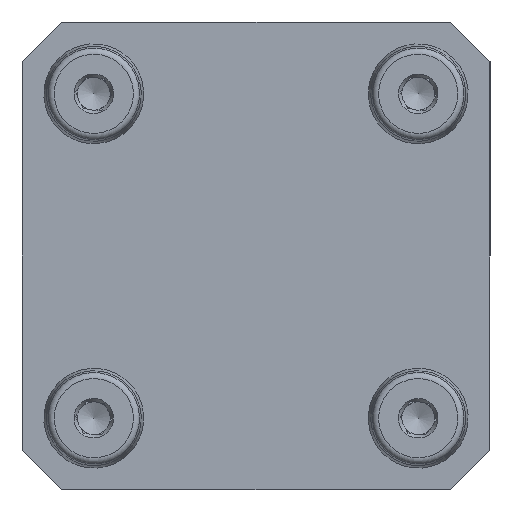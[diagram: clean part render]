
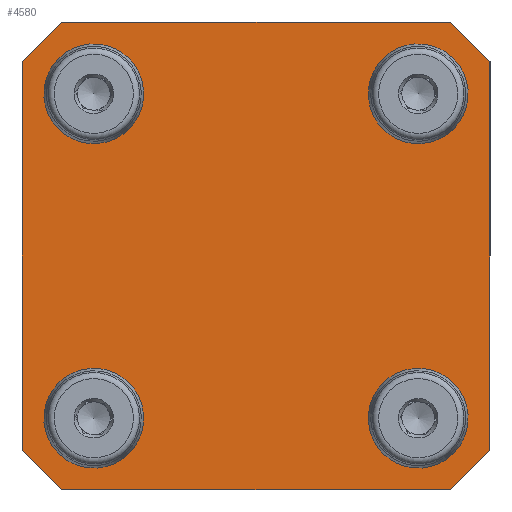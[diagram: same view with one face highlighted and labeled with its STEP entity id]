
A CAD part, front view. The second image highlights one B-rep face of the part: STEP entity #4580.
In plain terms, the highlighted planar face has unit normal (0, -1, 0).
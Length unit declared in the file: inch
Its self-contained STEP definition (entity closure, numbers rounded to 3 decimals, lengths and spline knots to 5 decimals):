
#98 = VERTEX_POINT ( 'NONE', #3923 ) ;
#167 = VECTOR ( 'NONE', #720, 39.37008 ) ;
#196 = DIRECTION ( 'NONE',  ( 0., -1., 0. ) ) ;
#199 = LINE ( 'NONE', #3916, #167 ) ;
#200 = CARTESIAN_POINT ( 'NONE',  ( 1.22638, 0., 1.47638 ) ) ;
#218 = ORIENTED_EDGE ( 'NONE', *, *, #1196, .F. ) ;
#262 = CARTESIAN_POINT ( 'NONE',  ( 1.47638, 0., -1.22638 ) ) ;
#337 = VERTEX_POINT ( 'NONE', #799 ) ;
#404 = ORIENTED_EDGE ( 'NONE', *, *, #4635, .F. ) ;
#425 = EDGE_CURVE ( 'NONE', #955, #889, #953, .T. ) ;
#437 = DIRECTION ( 'NONE',  ( 0., 0., -1. ) ) ;
#468 = EDGE_LOOP ( 'NONE', ( #5824 ) ) ;
#692 = EDGE_LOOP ( 'NONE', ( #218 ) ) ;
#720 = DIRECTION ( 'NONE',  ( 0., 0., 1. ) ) ;
#740 = EDGE_CURVE ( 'NONE', #337, #2561, #5418, .T. ) ;
#788 = DIRECTION ( 'NONE',  ( 0., 0., -1. ) ) ;
#799 = CARTESIAN_POINT ( 'NONE',  ( 1.22638, 0., -1.47638 ) ) ;
#845 = EDGE_CURVE ( 'NONE', #2693, #2693, #5628, .T. ) ;
#882 = CARTESIAN_POINT ( 'NONE',  ( -1.47638, 0., 1.22638 ) ) ;
#889 = VERTEX_POINT ( 'NONE', #882 ) ;
#953 = LINE ( 'NONE', #1881, #1959 ) ;
#955 = VERTEX_POINT ( 'NONE', #1898 ) ;
#983 = DIRECTION ( 'NONE',  ( 0.707, 0., -0.707 ) ) ;
#1065 = CIRCLE ( 'NONE', #5141, 0.23655 ) ;
#1120 = CARTESIAN_POINT ( 'NONE',  ( -1.02362, 0., -1.02362 ) ) ;
#1162 = VECTOR ( 'NONE', #1188, 39.37008 ) ;
#1184 = EDGE_CURVE ( 'NONE', #3751, #3751, #3439, .T. ) ;
#1188 = DIRECTION ( 'NONE',  ( -0.707, 0., 0.707 ) ) ;
#1196 = EDGE_CURVE ( 'NONE', #5645, #5645, #1065, .T. ) ;
#1197 = FACE_BOUND ( 'NONE', #1301, .T. ) ;
#1247 = VERTEX_POINT ( 'NONE', #262 ) ;
#1283 = VECTOR ( 'NONE', #983, 39.37008 ) ;
#1301 = EDGE_LOOP ( 'NONE', ( #5493 ) ) ;
#1349 = DIRECTION ( 'NONE',  ( 0., -1., 0. ) ) ;
#1367 = VECTOR ( 'NONE', #1512, 39.37008 ) ;
#1399 = CARTESIAN_POINT ( 'NONE',  ( 1.02362, 0., 1.26017 ) ) ;
#1412 = CARTESIAN_POINT ( 'NONE',  ( -1.35138, 0., -1.35138 ) ) ;
#1441 = EDGE_CURVE ( 'NONE', #955, #6076, #2038, .T. ) ;
#1512 = DIRECTION ( 'NONE',  ( 0.707, 0., 0.707 ) ) ;
#1525 = DIRECTION ( 'NONE',  ( 0., -1., 0. ) ) ;
#1595 = FACE_OUTER_BOUND ( 'NONE', #4294, .T. ) ;
#1624 = EDGE_CURVE ( 'NONE', #337, #1247, #5613, .T. ) ;
#1657 = EDGE_LOOP ( 'NONE', ( #4866 ) ) ;
#1881 = CARTESIAN_POINT ( 'NONE',  ( -1.35138, 0., 1.35138 ) ) ;
#1898 = CARTESIAN_POINT ( 'NONE',  ( -1.22638, 0., 1.47638 ) ) ;
#1912 = CARTESIAN_POINT ( 'NONE',  ( -1.22638, 0., -1.47638 ) ) ;
#1937 = DIRECTION ( 'NONE',  ( -0.707, 0., -0.707 ) ) ;
#1959 = VECTOR ( 'NONE', #1937, 39.37008 ) ;
#2038 = LINE ( 'NONE', #2167, #4952 ) ;
#2046 = DIRECTION ( 'NONE',  ( 0., 0., 1. ) ) ;
#2071 = EDGE_CURVE ( 'NONE', #3197, #2561, #2765, .T. ) ;
#2147 = AXIS2_PLACEMENT_3D ( 'NONE', #1120, #1525, #2046 ) ;
#2167 = CARTESIAN_POINT ( 'NONE',  ( -1.47638, 0., 1.47638 ) ) ;
#2187 = ORIENTED_EDGE ( 'NONE', *, *, #740, .F. ) ;
#2306 = CARTESIAN_POINT ( 'NONE',  ( -1.02362, 0., 1.02362 ) ) ;
#2336 = VECTOR ( 'NONE', #788, 39.37008 ) ;
#2502 = DIRECTION ( 'NONE',  ( 0., -1., 0. ) ) ;
#2561 = VERTEX_POINT ( 'NONE', #1912 ) ;
#2693 = VERTEX_POINT ( 'NONE', #3874 ) ;
#2765 = LINE ( 'NONE', #1412, #1283 ) ;
#2959 = CARTESIAN_POINT ( 'NONE',  ( 1.35138, 0., 1.35138 ) ) ;
#2976 = ORIENTED_EDGE ( 'NONE', *, *, #2071, .T. ) ;
#2996 = CARTESIAN_POINT ( 'NONE',  ( 1.02362, 0., 1.02362 ) ) ;
#3037 = DIRECTION ( 'NONE',  ( -1., 0., 0. ) ) ;
#3060 = PLANE ( 'NONE',  #5042 ) ;
#3084 = CARTESIAN_POINT ( 'NONE',  ( -1.47638, 0., -1.22638 ) ) ;
#3123 = AXIS2_PLACEMENT_3D ( 'NONE', #3604, #1349, #5086 ) ;
#3135 = ORIENTED_EDGE ( 'NONE', *, *, #1441, .F. ) ;
#3142 = ORIENTED_EDGE ( 'NONE', *, *, #1624, .T. ) ;
#3197 = VERTEX_POINT ( 'NONE', #3084 ) ;
#3439 = CIRCLE ( 'NONE', #2147, 0.23655 ) ;
#3441 = DIRECTION ( 'NONE',  ( 1., 0., 0. ) ) ;
#3481 = CARTESIAN_POINT ( 'NONE',  ( 0., 0., 0. ) ) ;
#3571 = DIRECTION ( 'NONE',  ( 0., 0., -1. ) ) ;
#3604 = CARTESIAN_POINT ( 'NONE',  ( 1.02362, 0., -1.02362 ) ) ;
#3726 = LINE ( 'NONE', #5965, #2336 ) ;
#3742 = CARTESIAN_POINT ( 'NONE',  ( -1.02362, 0., 0.78707 ) ) ;
#3751 = VERTEX_POINT ( 'NONE', #5709 ) ;
#3837 = ORIENTED_EDGE ( 'NONE', *, *, #425, .T. ) ;
#3874 = CARTESIAN_POINT ( 'NONE',  ( 1.02362, 0., -1.26017 ) ) ;
#3916 = CARTESIAN_POINT ( 'NONE',  ( -1.47638, 0., 1.47638 ) ) ;
#3923 = CARTESIAN_POINT ( 'NONE',  ( 1.47638, 0., 1.22638 ) ) ;
#3929 = VECTOR ( 'NONE', #3037, 39.37008 ) ;
#3941 = LINE ( 'NONE', #2959, #1162 ) ;
#3975 = DIRECTION ( 'NONE',  ( 0., 0., 1. ) ) ;
#4294 = EDGE_LOOP ( 'NONE', ( #4632, #5738, #3135, #3837, #404, #2976, #2187, #3142 ) ) ;
#4352 = CARTESIAN_POINT ( 'NONE',  ( 1.35138, 0., -1.35138 ) ) ;
#4434 = CARTESIAN_POINT ( 'NONE',  ( -1.47638, 0., -1.47638 ) ) ;
#4560 = FACE_BOUND ( 'NONE', #468, .T. ) ;
#4580 = ADVANCED_FACE ( 'NONE', ( #4560, #1197, #5907, #5942, #1595 ), #3060, .T. ) ;
#4632 = ORIENTED_EDGE ( 'NONE', *, *, #4702, .F. ) ;
#4635 = EDGE_CURVE ( 'NONE', #3197, #889, #199, .T. ) ;
#4702 = EDGE_CURVE ( 'NONE', #98, #1247, #3726, .T. ) ;
#4866 = ORIENTED_EDGE ( 'NONE', *, *, #5459, .F. ) ;
#4952 = VECTOR ( 'NONE', #3441, 39.37008 ) ;
#5042 = AXIS2_PLACEMENT_3D ( 'NONE', #3481, #5415, #3571 ) ;
#5086 = DIRECTION ( 'NONE',  ( 0., 0., -1. ) ) ;
#5107 = EDGE_CURVE ( 'NONE', #98, #6076, #3941, .T. ) ;
#5141 = AXIS2_PLACEMENT_3D ( 'NONE', #2996, #196, #3975 ) ;
#5415 = DIRECTION ( 'NONE',  ( 0., -1., 0. ) ) ;
#5418 = LINE ( 'NONE', #4434, #3929 ) ;
#5459 = EDGE_CURVE ( 'NONE', #5665, #5665, #6079, .T. ) ;
#5486 = AXIS2_PLACEMENT_3D ( 'NONE', #2306, #2502, #437 ) ;
#5493 = ORIENTED_EDGE ( 'NONE', *, *, #845, .F. ) ;
#5613 = LINE ( 'NONE', #4352, #1367 ) ;
#5628 = CIRCLE ( 'NONE', #3123, 0.23655 ) ;
#5645 = VERTEX_POINT ( 'NONE', #1399 ) ;
#5665 = VERTEX_POINT ( 'NONE', #3742 ) ;
#5709 = CARTESIAN_POINT ( 'NONE',  ( -1.02362, 0., -0.78707 ) ) ;
#5738 = ORIENTED_EDGE ( 'NONE', *, *, #5107, .T. ) ;
#5824 = ORIENTED_EDGE ( 'NONE', *, *, #1184, .F. ) ;
#5907 = FACE_BOUND ( 'NONE', #692, .T. ) ;
#5942 = FACE_BOUND ( 'NONE', #1657, .T. ) ;
#5965 = CARTESIAN_POINT ( 'NONE',  ( 1.47638, 0., 1.47638 ) ) ;
#6076 = VERTEX_POINT ( 'NONE', #200 ) ;
#6079 = CIRCLE ( 'NONE', #5486, 0.23655 ) ;
